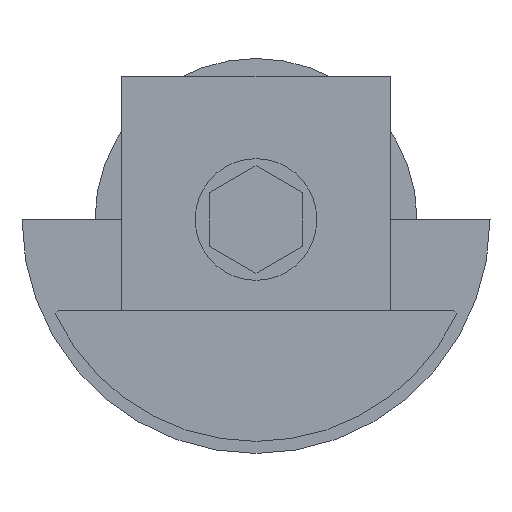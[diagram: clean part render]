
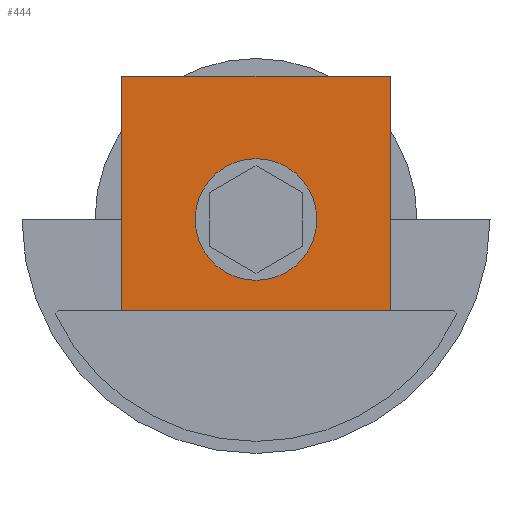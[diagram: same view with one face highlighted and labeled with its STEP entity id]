
A CAD part, left-side view. The second image highlights one B-rep face of the part: STEP entity #444.
In plain terms, the highlighted planar face has unit normal (-1, 0, 0).
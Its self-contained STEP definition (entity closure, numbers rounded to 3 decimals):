
#1 = FACE_BOUND ( 'NONE', #896, .T. ) ;
#47 = VERTEX_POINT ( 'NONE', #1219 ) ;
#52 = DIRECTION ( 'NONE',  ( 0., 0., 1. ) ) ;
#56 = CARTESIAN_POINT ( 'NONE',  ( -422., -51.45, 20. ) ) ;
#78 = CARTESIAN_POINT ( 'NONE',  ( -422., -32.7, 32.7 ) ) ;
#89 = DIRECTION ( 'NONE',  ( -1., 0., 0. ) ) ;
#231 = CIRCLE ( 'NONE', #1151, 4. ) ;
#239 = VERTEX_POINT ( 'NONE', #780 ) ;
#255 = DIRECTION ( 'NONE',  ( 0., 0., -1. ) ) ;
#276 = CARTESIAN_POINT ( 'NONE',  ( -422., -51.45, 52.7 ) ) ;
#357 = VECTOR ( 'NONE', #1201, 1000. ) ;
#376 = EDGE_CURVE ( 'NONE', #934, #239, #1310, .T. ) ;
#397 = DIRECTION ( 'NONE',  ( 0., 0., -1. ) ) ;
#424 = EDGE_CURVE ( 'NONE', #47, #1125, #1856, .T. ) ;
#432 = ORIENTED_EDGE ( 'NONE', *, *, #733, .F. ) ;
#444 = ADVANCED_FACE ( 'NONE', ( #1, #1509 ), #1370, .F. ) ;
#446 = VECTOR ( 'NONE', #1632, 1000. ) ;
#449 = VECTOR ( 'NONE', #1033, 1000. ) ;
#452 = ORIENTED_EDGE ( 'NONE', *, *, #424, .F. ) ;
#453 = DIRECTION ( 'NONE',  ( 1., 0., 0. ) ) ;
#585 = LINE ( 'NONE', #887, #449 ) ;
#733 = EDGE_CURVE ( 'NONE', #1125, #47, #231, .T. ) ;
#750 = CARTESIAN_POINT ( 'NONE',  ( -422., -60.696, 52.7 ) ) ;
#764 = DIRECTION ( 'NONE',  ( 0., -1., 0. ) ) ;
#771 = VECTOR ( 'NONE', #52, 1000. ) ;
#780 = CARTESIAN_POINT ( 'NONE',  ( -422., -13.95, 52.7 ) ) ;
#791 = EDGE_CURVE ( 'NONE', #1458, #1300, #585, .T. ) ;
#803 = EDGE_CURVE ( 'NONE', #934, #1458, #1351, .T. ) ;
#866 = EDGE_CURVE ( 'NONE', #1300, #239, #1787, .T. ) ;
#887 = CARTESIAN_POINT ( 'NONE',  ( -422., -60.696, 20. ) ) ;
#896 = EDGE_LOOP ( 'NONE', ( #432, #452 ) ) ;
#934 = VERTEX_POINT ( 'NONE', #1716 ) ;
#958 = CARTESIAN_POINT ( 'NONE',  ( -422., -32.7, 28.7 ) ) ;
#984 = CARTESIAN_POINT ( 'NONE',  ( -422., -32.7, 32.7 ) ) ;
#1009 = CARTESIAN_POINT ( 'NONE',  ( -422., -13.95, 20. ) ) ;
#1033 = DIRECTION ( 'NONE',  ( 0., 1., 0. ) ) ;
#1111 = EDGE_LOOP ( 'NONE', ( #1883, #1483, #1778, #1478 ) ) ;
#1125 = VERTEX_POINT ( 'NONE', #958 ) ;
#1151 = AXIS2_PLACEMENT_3D ( 'NONE', #984, #89, #397 ) ;
#1201 = DIRECTION ( 'NONE',  ( 0., 0., -1. ) ) ;
#1219 = CARTESIAN_POINT ( 'NONE',  ( -422., -32.7, 36.7 ) ) ;
#1229 = CARTESIAN_POINT ( 'NONE',  ( -422., -13.95, 20. ) ) ;
#1300 = VERTEX_POINT ( 'NONE', #1009 ) ;
#1310 = LINE ( 'NONE', #1330, #446 ) ;
#1330 = CARTESIAN_POINT ( 'NONE',  ( -422., -60.696, 52.7 ) ) ;
#1351 = LINE ( 'NONE', #276, #357 ) ;
#1370 = PLANE ( 'NONE',  #1891 ) ;
#1458 = VERTEX_POINT ( 'NONE', #56 ) ;
#1478 = ORIENTED_EDGE ( 'NONE', *, *, #803, .F. ) ;
#1483 = ORIENTED_EDGE ( 'NONE', *, *, #866, .F. ) ;
#1505 = AXIS2_PLACEMENT_3D ( 'NONE', #78, #1621, #255 ) ;
#1509 = FACE_OUTER_BOUND ( 'NONE', #1111, .T. ) ;
#1621 = DIRECTION ( 'NONE',  ( -1., 0., 0. ) ) ;
#1632 = DIRECTION ( 'NONE',  ( 0., 1., 0. ) ) ;
#1716 = CARTESIAN_POINT ( 'NONE',  ( -422., -51.45, 52.7 ) ) ;
#1778 = ORIENTED_EDGE ( 'NONE', *, *, #791, .F. ) ;
#1787 = LINE ( 'NONE', #1229, #771 ) ;
#1856 = CIRCLE ( 'NONE', #1505, 4. ) ;
#1883 = ORIENTED_EDGE ( 'NONE', *, *, #376, .T. ) ;
#1891 = AXIS2_PLACEMENT_3D ( 'NONE', #750, #453, #764 ) ;
